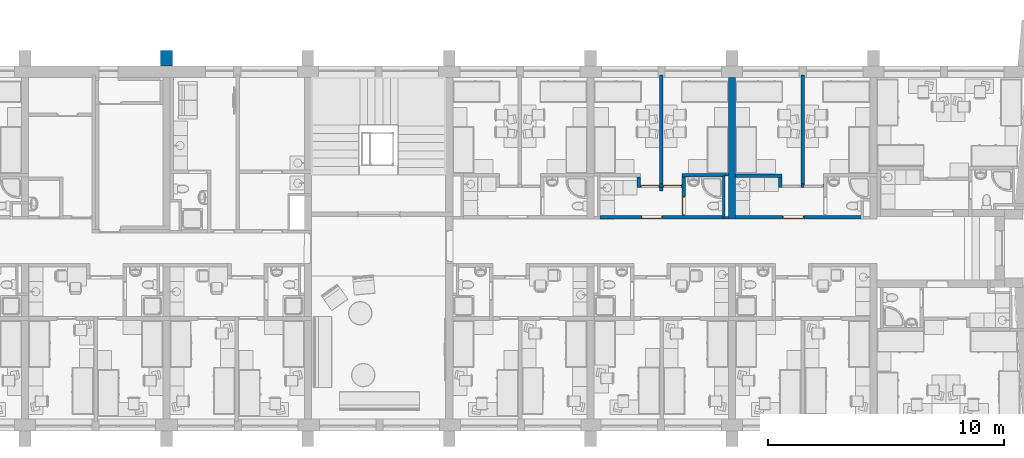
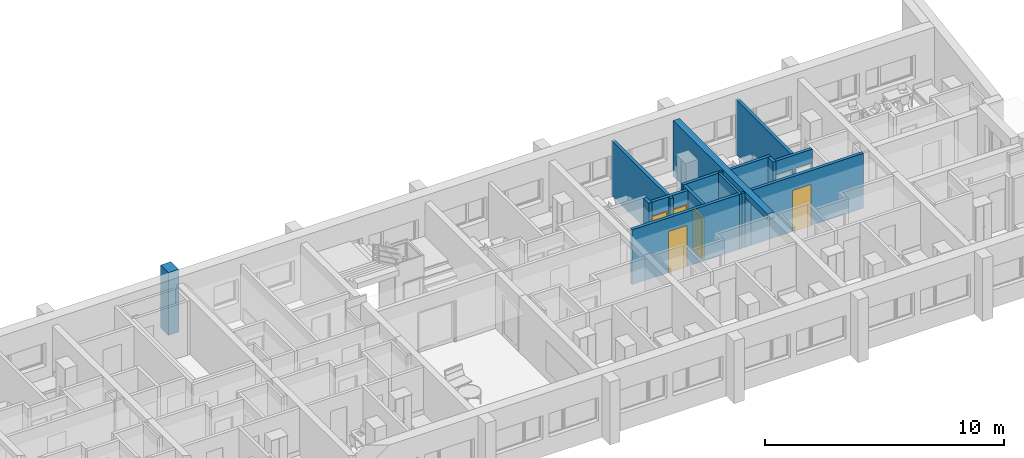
# One storey, part 17 of 165: 16 walls, 5 doors, 8 openings.
"""IFC2X3 building model written with IfcOpenShell, lengths in millimetres."""

from ifc_helpers import new_model, entity, si_unit, converted_unit, money_unit, direction, frame, origin_with_axes, place, context, subcontext, project, spatial, polyline, outline, extrude, faceted_brep, source, transform, mapped, material, material_list, layer, layer_set, layer_usage, type_object, element, fill, save


model = new_model("IFC2X3")

# Units and contexts
model_context = context("Model", 3, precision=1e-05, world=origin_with_axes(), true_north=direction((0.0, 1.0)))
body_context = subcontext(model_context, "Body", "Model", "MODEL_VIEW")
ifc_project = project(units=[si_unit("LENGTHUNIT", "METRE", prefix="MILLI"), si_unit("AREAUNIT", "SQUARE_METRE"), si_unit("VOLUMEUNIT", "CUBIC_METRE"), converted_unit("PLANEANGLEUNIT", "DEGREE", entity("IfcPlaneAngleMeasure", 0.0174532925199), si_unit("PLANEANGLEUNIT", "RADIAN"), dimensions=[0, 0, 0, 0, 0, 0, 0]), si_unit("SOLIDANGLEUNIT", "STERADIAN"), money_unit("USD"), converted_unit("TIMEUNIT", "Year", entity("IfcTimeMeasure", 31556926.0), si_unit("TIMEUNIT", "SECOND"), dimensions=[0, 0, 0, 0, 0, 0, 0]), si_unit("MASSUNIT", "GRAM"), si_unit("THERMODYNAMICTEMPERATUREUNIT", "DEGREE_CELSIUS"), si_unit("LUMINOUSINTENSITYUNIT", "LUMEN")], contexts=[model_context])

# Site, building, storey
site_placement = place(None, origin_with_axes())
site = spatial("IfcSite", under=ifc_project, at=site_placement, Name="Site", CompositionType="ELEMENT")
building_placement = place(site_placement, origin_with_axes())
building = spatial("IfcBuilding", under=site, at=building_placement, Name="Building", CompositionType="ELEMENT")
storey_placement = place(building_placement, frame((0.0, 0.0, 6300.0), z_axis=(0.0, 0.0, 1.0), x_axis=(1.0, 0.0, 0.0)))
storey = spatial("IfcBuildingStorey", under=building, at=storey_placement, Name="4KORRUS", CompositionType="ELEMENT", Elevation=6300.0)

# Walls
ifc_material_1 = material(Name="Olemasolevad seinad tellis, uus viimistlus")
ifc_layer_1 = layer(ifc_material_1, 500.0, ventilated="UNKNOWN")
ifc_layer_set_1 = layer_set([ifc_layer_1], Name="Olemasolevad seinad tellis, uus viimistlus 500")
ifc_layer_usage_1 = layer_usage(ifc_layer_set_1, "AXIS2", "POSITIVE", -100.0)
wall_type_1 = type_object("IfcWallType", Name="Olemasolevad seinad tellis, uus viimistlus 500", PredefinedType="NOTDEFINED")
wall_1_placement = place(storey_placement, frame((-17990.2967033, -4639.6041088, 0.0), z_axis=(0.0, 0.0, 1.0), x_axis=(0.0, 1.0, 0.0)))
element("IfcWallStandardCase", 1, at=wall_1_placement, inside=storey, type_object=wall_type_1, material=ifc_layer_usage_1, Name="VS1", ObjectType="VS1", context=body_context, shape_type="SweptSolid", body=[
    extrude(outline(polyline([(0.0, -100.0), (657.402041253, -100.0), (657.402041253, 400.0), (0.0, 400.0), (0.0, -100.0)])), origin_with_axes(), (0.0, 0.0, 1.0), 3200.0),
])
ifc_material_2 = material(Name="UmbKipsplaat")
ifc_layer_2 = layer(ifc_material_2, 13.0, ventilated="UNKNOWN")
ifc_layer_3 = layer(ifc_material_2, 13.0, ventilated="UNKNOWN")
ifc_material_3 = material(Name="SOOJUSTUS MINERAALVILL")
ifc_layer_4 = layer(ifc_material_3, 98.0, ventilated="UNKNOWN")
ifc_layer_5 = layer(ifc_material_2, 13.0, ventilated="UNKNOWN")
ifc_layer_6 = layer(ifc_material_2, 13.0, ventilated="UNKNOWN")
ifc_layer_set_2 = layer_set([ifc_layer_2, ifc_layer_3, ifc_layer_4, ifc_layer_5, ifc_layer_6], Name="kipssein150")
ifc_layer_usage_2 = layer_usage(ifc_layer_set_2, "AXIS2", "POSITIVE", -150.0)
wall_type_2 = type_object("IfcWallType", Name="kipssein150 150", PredefinedType="NOTDEFINED")
wall_2_placement = place(storey_placement, frame((7984.2564771, -9391.01327279, 0.0), z_axis=(0.0, 0.0, 1.0), x_axis=(-1.0, 0.0, 0.0)))
element("IfcWallStandardCase", 2, at=wall_2_placement, inside=storey, type_object=wall_type_2, material=ifc_layer_usage_2, Name="SS1", ObjectType="SS1", context=body_context, shape_type="SweptSolid", body=[
    extrude(outline(polyline([(0.0, -150.0), (1974.55318041, -150.0), (1974.55318041, 0.0), (0.0, 0.0), (0.0, -150.0)])), origin_with_axes(), (0.0, 0.0, 1.0), 2800.0),
])
ifc_layer_usage_3 = layer_usage(ifc_layer_set_2, "AXIS2", "POSITIVE", -150.0)
wall_3_placement = place(storey_placement, frame((7984.2564771, -9391.01327279, 0.0), z_axis=(0.0, 0.0, 1.0), x_axis=(0.0, -1.0, 0.0)))
element("IfcWallStandardCase", 3, at=wall_3_placement, inside=storey, type_object=wall_type_2, material=ifc_layer_usage_3, Name="SS1", ObjectType="SS1", context=body_context, shape_type="SweptSolid", body=[
    extrude(outline(polyline([(0.0, -150.0), (414.880865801, -150.0), (414.880865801, 0.0), (0.0, 0.0), (0.0, -150.0)])), origin_with_axes(), (0.0, 0.0, 1.0), 2800.0),
])

# Wall, openings
ifc_layer_usage_4 = layer_usage(ifc_layer_set_2, "AXIS2", "POSITIVE", 0.0)
wall_4_placement = place(storey_placement, frame((7984.2564771, -9805.89413859, 0.0), z_axis=(0.0, 0.0, 1.0), x_axis=(1.0, 0.0, 0.0)))
wall_4 = element("IfcWallStandardCase", 4, at=wall_4_placement, inside=storey, type_object=wall_type_2, material=ifc_layer_usage_4, Name="SS1", ObjectType="SS1", context=body_context, shape_type="SweptSolid", body=[
    extrude(outline(polyline([(0.0, 0.0), (1750.44681959, 0.0), (1750.44681959, 150.0), (0.0, 150.0), (0.0, 0.0)])), origin_with_axes(), (0.0, 0.0, 1.0), 2800.0),
])
opening_1_placement = place(wall_4_placement, frame((1341.45577623, 0.0, 0.0), z_axis=(0.0, 0.0, 1.0), x_axis=(1.0, 0.0, 0.0)))
element("IfcOpeningElement", 5, at=opening_1_placement, cuts=wall_4, Name="SU3-5", context=body_context, shape_type="SweptSolid", body=[
    extrude(outline(polyline([(-400.0, 0.0), (400.0, 0.0), (400.0, 2100.0), (-400.0, 2100.0), (-400.0, 0.0)])), frame((0.0, 150.0, 0.0), z_axis=(0.0, 1.0, 0.0), x_axis=(-1.0, 0.0, 0.0)), (0.0, 0.0, -1.0), 450.0),
])
opening_2_placement = place(wall_4_placement, frame((400.0, 0.0, 0.0), z_axis=(0.0, 0.0, 1.0), x_axis=(1.0, 0.0, 0.0)))
element("IfcOpeningElement", 6, at=opening_2_placement, cuts=wall_4, Name="SU3-4", context=body_context, shape_type="SweptSolid", body=[
    extrude(outline(polyline([(-400.0, 0.0), (400.0, 0.0), (400.0, 2100.0), (-400.0, 2100.0), (-400.0, 0.0)])), frame((0.0, 150.0, 0.0), z_axis=(0.0, -1.0, 0.0), x_axis=(1.0, 0.0, 0.0)), (0.0, 0.0, 1.0), 450.0),
])

# Wall
ifc_layer_usage_5 = layer_usage(ifc_layer_set_2, "AXIS2", "POSITIVE", 0.0)
wall_5_placement = place(storey_placement, frame((8784.2564771, -5039.6041088, 0.0), z_axis=(0.0, 0.0, 1.0), x_axis=(0.0, -1.0, 0.0)))
element("IfcWallStandardCase", 7, at=wall_5_placement, inside=storey, type_object=wall_type_2, material=ifc_layer_usage_5, Name="SS1", ObjectType="SS1", context=body_context, shape_type="SweptSolid", body=[
    extrude(outline(polyline([(0.0, 0.0), (4766.29002979, 0.0), (4766.29002979, 150.0), (0.0, 150.0), (0.0, 0.0)])), origin_with_axes(), (0.0, 0.0, 1.0), 2800.0),
])

# Wall, opening, door
ifc_layer_usage_6 = layer_usage(ifc_layer_set_2, "AXIS2", "POSITIVE", 0.0)
wall_6_placement = place(storey_placement, frame((6009.70329669, -11136.6041535, 0.0), z_axis=(0.0, 0.0, 1.0), x_axis=(1.0, 0.0, 0.0)))
wall_6 = element("IfcWallStandardCase", 8, at=wall_6_placement, inside=storey, type_object=wall_type_2, material=ifc_layer_usage_6, Name="SS1", ObjectType="SS1", context=body_context, shape_type="SweptSolid", body=[
    extrude(outline(polyline([(0.0, 0.0), (5427.92293803, 0.0), (5427.92293803, 150.0), (0.0, 150.0), (0.0, 0.0)])), origin_with_axes(), (0.0, 0.0, 1.0), 2800.0),
])
opening_3_placement = place(wall_6_placement, frame((2449.55318041, 0.0, 0.0), z_axis=(0.0, 0.0, 1.0), x_axis=(1.0, 0.0, 0.0)))
opening_3 = element("IfcOpeningElement", 9, at=opening_3_placement, cuts=wall_6, Name="SU2-6", context=body_context, shape_type="SweptSolid", body=[
    extrude(outline(polyline([(-450.0, -2100.0), (450.0, -2100.0), (450.0, 0.0), (-450.0, 0.0), (-450.0, -2100.0)])), frame((0.0, 150.0, 0.0), z_axis=(0.0, 1.0, 0.0), x_axis=(1.0, 0.0, 0.0)), (0.0, 0.0, -1.0), 450.0),
])
ifc_material_4 = material(Name="Background")
ifc_material_list = material_list([ifc_material_4])
door_style_1 = type_object("IfcDoorStyle", Name="Door 19", ConstructionType="NOTDEFINED", OperationType="SINGLE_SWING_LEFT", ParameterTakesPrecedence=False, Sizeable=False)
shared_shape_1 = source(origin_with_axes(), body_context, "Body", "Brep", [
    faceted_brep([(410.0, -40.0, 0.0), (410.0, -115.0, 0.0), (410.0, -115.0, 2060.0), (410.0, -40.0, 2060.0), (422.0, -40.0, 0.0), (422.0, 0.0, 0.0), (450.0, 0.0, 0.0), (450.0, -115.0, 0.0), (450.0, -115.0, 2060.0), (422.0, -40.0, 2060.0), (450.0, 0.0, 2060.0), (422.0, 0.0, 2060.0)], [[[0, 1, 2, 3]], [[4, 5, 6, 7, 1, 0]], [[2, 1, 7, 8]], [[9, 3, 2, 8, 10, 11]], [[9, 4, 0, 3]], [[11, 5, 4, 9]], [[11, 10, 6, 5]], [[7, 6, 10, 8]]]),
    faceted_brep([(-422.0, -40.0, 2060.0), (-422.0, 0.0, 2060.0), (-450.0, 0.0, 2060.0), (-450.0, -115.0, 2060.0), (-410.0, -115.0, 2060.0), (-410.0, -40.0, 2060.0), (-422.0, -40.0, 0.0), (-422.0, 0.0, 0.0), (-450.0, 0.0, 0.0), (-450.0, -115.0, 0.0), (-410.0, -115.0, 0.0), (-410.0, -40.0, 0.0)], [[[0, 1, 2, 3, 4, 5]], [[0, 6, 7, 1]], [[7, 8, 2, 1]], [[3, 2, 8, 9]], [[4, 3, 9, 10]], [[5, 4, 10, 11]], [[5, 11, 6, 0]], [[6, 11, 10, 9, 8, 7]]]),
    faceted_brep([(422.0, 0.0, 2072.0), (-422.0, 0.0, 2072.0), (-422.0, 0.0, 2060.0), (-450.0, 0.0, 2060.0), (-450.0, 0.0, 2100.0), (450.0, 0.0, 2100.0), (450.0, 0.0, 2060.0), (422.0, 0.0, 2060.0), (422.0, -40.0, 2072.0), (-422.0, -40.0, 2072.0), (-422.0, -40.0, 2060.0), (-410.0, -40.0, 2060.0), (-410.0, -115.0, 2060.0), (-450.0, -115.0, 2060.0), (-450.0, -115.0, 2100.0), (450.0, -115.0, 2100.0), (450.0, -115.0, 2060.0), (422.0, -40.0, 2060.0), (410.0, -115.0, 2060.0), (410.0, -40.0, 2060.0)], [[[0, 1, 2, 3, 4, 5, 6, 7]], [[0, 8, 9, 1]], [[1, 9, 10, 2]], [[10, 11, 12, 13, 3, 2]], [[14, 4, 3, 13]], [[15, 5, 4, 14]], [[16, 6, 5, 15]], [[17, 7, 6, 16, 18, 19]], [[7, 17, 8, 0]], [[10, 9, 8, 17, 19, 11]], [[19, 18, 12, 11]], [[13, 12, 18, 16, 15, 14]]]),
    faceted_brep([(-422.0, 0.0, 0.0), (422.0, 0.0, 0.0), (422.0, -40.0, 0.0), (-422.0, -40.0, 0.0), (-422.0, 0.0, 2072.0), (422.0, 0.0, 2072.0), (422.0, -40.0, 2072.0), (-422.0, -40.0, 2072.0)], [[[0, 1, 2, 3]], [[0, 4, 5, 1]], [[1, 5, 6, 2]], [[3, 2, 6, 7]], [[4, 0, 3, 7]], [[5, 4, 7, 6]]]),
])
door_1_placement = place(opening_3_placement, frame((450.0, 0.0, 0.0), z_axis=(0.0, 0.0, 1.0), x_axis=(-1.0, 0.0, 0.0)))
door_1 = element("IfcDoor", 10, at=door_1_placement, inside=storey, type_object=door_style_1, material=ifc_material_list, Name="SU2-6", ObjectType="Korteri välisuks", OverallHeight=2100.0, OverallWidth=900.0, context=body_context, shape_type="MappedRepresentation", body=[
    mapped(shared_shape_1, transform((450.0, 0.0, 0.0))),
])
fill(opening_3, door_1)

ifc_layer_usage_7 = layer_usage(ifc_layer_set_2, "AXIS2", "POSITIVE", 0.0)
wall_7_placement = place(storey_placement, frame((3734.70329669, -9367.37850445, 0.0), z_axis=(0.0, 0.0, 1.0), x_axis=(0.0, -1.0, 0.0)))
wall_7 = element("IfcWallStandardCase", 11, at=wall_7_placement, inside=storey, type_object=wall_type_2, material=ifc_layer_usage_7, Name="SS1", ObjectType="SS1", context=body_context, shape_type="SweptSolid", body=[
    extrude(outline(polyline([(0.0, 0.0), (1619.22560435, 0.0), (1619.22560435, 150.0), (0.0, 150.0), (0.0, 0.0)])), origin_with_axes(), (0.0, 0.0, 1.0), 2800.0),
])
opening_4_placement = place(wall_7_placement, frame((1219.22560435, 0.0, 0.0), z_axis=(0.0, 0.0, 1.0), x_axis=(1.0, 0.0, 0.0)))
opening_4 = element("IfcOpeningElement", 12, at=opening_4_placement, cuts=wall_7, Name="SU3-3", context=body_context, shape_type="SweptSolid", body=[
    extrude(outline(polyline([(-400.0, -2100.0), (400.0, -2100.0), (400.0, 0.0), (-400.0, 0.0), (-400.0, -2100.0)])), frame((0.0, 150.0, 0.0), z_axis=(0.0, 1.0, 0.0), x_axis=(1.0, 0.0, 0.0)), (0.0, 0.0, -1.0), 450.0),
])
shared_shape_2 = source(origin_with_axes(), body_context, "Body", "Brep", [
    faceted_brep([(360.0, -40.0, 0.0), (360.0, -115.0, 0.0), (360.0, -115.0, 2060.0), (360.0, -40.0, 2060.0), (372.0, -40.0, 0.0), (372.0, 0.0, 0.0), (400.0, 0.0, 0.0), (400.0, -115.0, 0.0), (400.0, -115.0, 2060.0), (372.0, -40.0, 2060.0), (400.0, 0.0, 2060.0), (372.0, 0.0, 2060.0)], [[[0, 1, 2, 3]], [[4, 5, 6, 7, 1, 0]], [[2, 1, 7, 8]], [[9, 3, 2, 8, 10, 11]], [[9, 4, 0, 3]], [[11, 5, 4, 9]], [[11, 10, 6, 5]], [[7, 6, 10, 8]]]),
    faceted_brep([(-372.0, -40.0, 2060.0), (-372.0, 0.0, 2060.0), (-400.0, 0.0, 2060.0), (-400.0, -115.0, 2060.0), (-360.0, -115.0, 2060.0), (-360.0, -40.0, 2060.0), (-372.0, -40.0, 0.0), (-372.0, 0.0, 0.0), (-400.0, 0.0, 0.0), (-400.0, -115.0, 0.0), (-360.0, -115.0, 0.0), (-360.0, -40.0, 0.0)], [[[0, 1, 2, 3, 4, 5]], [[0, 6, 7, 1]], [[7, 8, 2, 1]], [[3, 2, 8, 9]], [[4, 3, 9, 10]], [[5, 4, 10, 11]], [[5, 11, 6, 0]], [[6, 11, 10, 9, 8, 7]]]),
    faceted_brep([(372.0, 0.0, 2072.0), (-372.0, 0.0, 2072.0), (-372.0, 0.0, 2060.0), (-400.0, 0.0, 2060.0), (-400.0, 0.0, 2100.0), (400.0, 0.0, 2100.0), (400.0, 0.0, 2060.0), (372.0, 0.0, 2060.0), (372.0, -40.0, 2072.0), (-372.0, -40.0, 2072.0), (-372.0, -40.0, 2060.0), (-360.0, -40.0, 2060.0), (-360.0, -115.0, 2060.0), (-400.0, -115.0, 2060.0), (-400.0, -115.0, 2100.0), (400.0, -115.0, 2100.0), (400.0, -115.0, 2060.0), (372.0, -40.0, 2060.0), (360.0, -115.0, 2060.0), (360.0, -40.0, 2060.0)], [[[0, 1, 2, 3, 4, 5, 6, 7]], [[0, 8, 9, 1]], [[1, 9, 10, 2]], [[10, 11, 12, 13, 3, 2]], [[14, 4, 3, 13]], [[15, 5, 4, 14]], [[16, 6, 5, 15]], [[17, 7, 6, 16, 18, 19]], [[7, 17, 8, 0]], [[10, 9, 8, 17, 19, 11]], [[19, 18, 12, 11]], [[13, 12, 18, 16, 15, 14]]]),
    faceted_brep([(-372.0, 0.0, 0.0), (372.0, 0.0, 0.0), (372.0, -40.0, 0.0), (-372.0, -40.0, 0.0), (-372.0, 0.0, 2072.0), (372.0, 0.0, 2072.0), (372.0, -40.0, 2072.0), (-372.0, -40.0, 2072.0)], [[[0, 1, 2, 3]], [[0, 4, 5, 1]], [[1, 5, 6, 2]], [[3, 2, 6, 7]], [[4, 0, 3, 7]], [[5, 4, 7, 6]]]),
])
door_2_placement = place(opening_4_placement, frame((400.0, 0.0, 0.0), z_axis=(0.0, 0.0, 1.0), x_axis=(-1.0, 0.0, 0.0)))
door_2 = element("IfcDoor", 13, at=door_2_placement, inside=storey, type_object=door_style_1, material=ifc_material_list, Name="SU3-3", ObjectType="WC-uks", OverallHeight=2100.0, OverallWidth=800.0, context=body_context, shape_type="MappedRepresentation", body=[
    mapped(shared_shape_2, transform((400.0, 0.0, 0.0))),
])
fill(opening_4, door_2)

# Walls
ifc_layer_usage_8 = layer_usage(ifc_layer_set_2, "AXIS2", "POSITIVE", -150.0)
wall_8_placement = place(storey_placement, frame((1984.2564771, -9366.37850445, 0.0), z_axis=(0.0, 0.0, 1.0), x_axis=(0.0, -1.0, 0.0)))
element("IfcWallStandardCase", 14, at=wall_8_placement, inside=storey, type_object=wall_type_2, material=ifc_layer_usage_8, Name="SS1", ObjectType="SS1", context=body_context, shape_type="SweptSolid", body=[
    extrude(outline(polyline([(0.0, -150.0), (440.515634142, -150.0), (440.515634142, 0.0), (0.0, 0.0), (0.0, -150.0)])), origin_with_axes(), (0.0, 0.0, 1.0), 2800.0),
])
ifc_layer_usage_9 = layer_usage(ifc_layer_set_2, "AXIS2", "POSITIVE", 0.0)
wall_9_placement = place(storey_placement, frame((3734.70329669, -9367.37850445, 0.0), z_axis=(0.0, 0.0, 1.0), x_axis=(1.0, 0.0, 0.0)))
element("IfcWallStandardCase", 15, at=wall_9_placement, inside=storey, type_object=wall_type_2, material=ifc_layer_usage_9, Name="SS1", ObjectType="SS1", context=body_context, shape_type="SweptSolid", body=[
    extrude(outline(polyline([(0.0, 0.0), (1825.0, 0.0), (1825.0, 150.0), (0.0, 150.0), (0.0, 0.0)])), origin_with_axes(), (0.0, 0.0, 1.0), 2800.0),
])

# Wall, openings, doors
ifc_layer_usage_10 = layer_usage(ifc_layer_set_2, "AXIS2", "POSITIVE", 0.0)
wall_10_placement = place(storey_placement, frame((1984.2564771, -9806.89413859, 0.0), z_axis=(0.0, 0.0, 1.0), x_axis=(1.0, 0.0, 0.0)))
wall_10 = element("IfcWallStandardCase", 16, at=wall_10_placement, inside=storey, type_object=wall_type_2, material=ifc_layer_usage_10, Name="SS1", ObjectType="SS1", context=body_context, shape_type="SweptSolid", body=[
    extrude(outline(polyline([(0.0, 0.0), (1750.44681959, 0.0), (1750.44681959, 150.0), (0.0, 150.0), (0.0, 0.0)])), origin_with_axes(), (0.0, 0.0, 1.0), 2800.0),
])
opening_5_placement = place(wall_10_placement, frame((1341.45577623, 0.0, 0.0), z_axis=(0.0, 0.0, 1.0), x_axis=(1.0, 0.0, 0.0)))
opening_5 = element("IfcOpeningElement", 17, at=opening_5_placement, cuts=wall_10, Name="SU3-5", context=body_context, shape_type="SweptSolid", body=[
    extrude(outline(polyline([(-400.0, 0.0), (400.0, 0.0), (400.0, 2100.0), (-400.0, 2100.0), (-400.0, 0.0)])), frame((0.0, 150.0, 0.0), z_axis=(0.0, 1.0, 0.0), x_axis=(-1.0, 0.0, 0.0)), (0.0, 0.0, -1.0), 450.0),
])
opening_6_placement = place(wall_10_placement, frame((400.0, 0.0, 0.0), z_axis=(0.0, 0.0, 1.0), x_axis=(1.0, 0.0, 0.0)))
opening_6 = element("IfcOpeningElement", 18, at=opening_6_placement, cuts=wall_10, Name="SU3-4", context=body_context, shape_type="SweptSolid", body=[
    extrude(outline(polyline([(-400.0, 0.0), (400.0, 0.0), (400.0, 2100.0), (-400.0, 2100.0), (-400.0, 0.0)])), frame((0.0, 150.0, 0.0), z_axis=(0.0, -1.0, 0.0), x_axis=(1.0, 0.0, 0.0)), (0.0, 0.0, 1.0), 450.0),
])
door_style_2 = type_object("IfcDoorStyle", Name="Door 19", ConstructionType="NOTDEFINED", OperationType="SINGLE_SWING_LEFT", ParameterTakesPrecedence=False, Sizeable=False)
shared_shape_3 = source(origin_with_axes(), body_context, "Body", "Brep", [
    faceted_brep([(360.0, -75.0, 0.0), (360.0, -150.0, 0.0), (360.0, -150.0, 2060.0), (360.0, -75.0, 2060.0), (372.0, -75.0, 0.0), (372.0, -35.0, 0.0), (400.0, -35.0, 0.0), (400.0, -150.0, 0.0), (400.0, -150.0, 2060.0), (372.0, -75.0, 2060.0), (400.0, -35.0, 2060.0), (372.0, -35.0, 2060.0)], [[[0, 1, 2, 3]], [[4, 5, 6, 7, 1, 0]], [[2, 1, 7, 8]], [[9, 3, 2, 8, 10, 11]], [[9, 4, 0, 3]], [[11, 5, 4, 9]], [[11, 10, 6, 5]], [[7, 6, 10, 8]]]),
    faceted_brep([(-372.0, -75.0, 2060.0), (-372.0, -35.0, 2060.0), (-400.0, -35.0, 2060.0), (-400.0, -150.0, 2060.0), (-360.0, -150.0, 2060.0), (-360.0, -75.0, 2060.0), (-372.0, -75.0, 0.0), (-372.0, -35.0, 0.0), (-400.0, -35.0, 0.0), (-400.0, -150.0, 0.0), (-360.0, -150.0, 0.0), (-360.0, -75.0, 0.0)], [[[0, 1, 2, 3, 4, 5]], [[0, 6, 7, 1]], [[7, 8, 2, 1]], [[3, 2, 8, 9]], [[4, 3, 9, 10]], [[5, 4, 10, 11]], [[5, 11, 6, 0]], [[6, 11, 10, 9, 8, 7]]]),
    faceted_brep([(372.0, -35.0, 2072.0), (-372.0, -35.0, 2072.0), (-372.0, -35.0, 2060.0), (-400.0, -35.0, 2060.0), (-400.0, -35.0, 2100.0), (400.0, -35.0, 2100.0), (400.0, -35.0, 2060.0), (372.0, -35.0, 2060.0), (372.0, -75.0, 2072.0), (-372.0, -75.0, 2072.0), (-372.0, -75.0, 2060.0), (-360.0, -75.0, 2060.0), (-360.0, -150.0, 2060.0), (-400.0, -150.0, 2060.0), (-400.0, -150.0, 2100.0), (400.0, -150.0, 2100.0), (400.0, -150.0, 2060.0), (372.0, -75.0, 2060.0), (360.0, -150.0, 2060.0), (360.0, -75.0, 2060.0)], [[[0, 1, 2, 3, 4, 5, 6, 7]], [[0, 8, 9, 1]], [[1, 9, 10, 2]], [[10, 11, 12, 13, 3, 2]], [[14, 4, 3, 13]], [[15, 5, 4, 14]], [[16, 6, 5, 15]], [[17, 7, 6, 16, 18, 19]], [[7, 17, 8, 0]], [[10, 9, 8, 17, 19, 11]], [[19, 18, 12, 11]], [[13, 12, 18, 16, 15, 14]]]),
    faceted_brep([(-372.0, -35.0, 0.0), (372.0, -35.0, 0.0), (372.0, -75.0, 0.0), (-372.0, -75.0, 0.0), (-372.0, -35.0, 2072.0), (372.0, -35.0, 2072.0), (372.0, -75.0, 2072.0), (-372.0, -75.0, 2072.0)], [[[0, 1, 2, 3]], [[0, 4, 5, 1]], [[1, 5, 6, 2]], [[3, 2, 6, 7]], [[4, 0, 3, 7]], [[5, 4, 7, 6]]]),
])
door_3_placement = place(opening_5_placement, frame((-400.0, 0.0, 0.0), z_axis=(0.0, 0.0, 1.0), x_axis=(1.0, 0.0, 0.0)))
door_3 = element("IfcDoor", 19, at=door_3_placement, inside=storey, type_object=door_style_2, material=ifc_material_list, Name="SU3-5", ObjectType="Toa uks", OverallHeight=2100.0, OverallWidth=800.0, context=body_context, shape_type="MappedRepresentation", body=[
    mapped(shared_shape_3, transform((400.0, 150.0, 0.0))),
])
fill(opening_5, door_3)
door_style_3 = type_object("IfcDoorStyle", Name="Door 19", ConstructionType="NOTDEFINED", OperationType="SINGLE_SWING_RIGHT", ParameterTakesPrecedence=False, Sizeable=False)
shared_shape_4 = source(origin_with_axes(), body_context, "Body", "Brep", [
    faceted_brep([(-360.0, -75.0, 0.0), (-360.0, -75.0, 2060.0), (-360.0, -150.0, 2060.0), (-360.0, -150.0, 0.0), (-372.0, -75.0, 2060.0), (-372.0, -75.0, 0.0), (-372.0, -35.0, 2060.0), (-400.0, -35.0, 2060.0), (-400.0, -150.0, 2060.0), (-400.0, -150.0, 0.0), (-400.0, -35.0, 0.0), (-372.0, -35.0, 0.0)], [[[0, 1, 2, 3]], [[4, 1, 0, 5]], [[4, 6, 7, 8, 2, 1]], [[2, 8, 9, 3]], [[5, 0, 3, 9, 10, 11]], [[6, 4, 5, 11]], [[6, 11, 10, 7]], [[9, 8, 7, 10]]]),
    faceted_brep([(372.0, -75.0, 2060.0), (360.0, -75.0, 2060.0), (360.0, -150.0, 2060.0), (400.0, -150.0, 2060.0), (400.0, -35.0, 2060.0), (372.0, -35.0, 2060.0), (372.0, -75.0, 0.0), (360.0, -75.0, 0.0), (360.0, -150.0, 0.0), (400.0, -150.0, 0.0), (400.0, -35.0, 0.0), (372.0, -35.0, 0.0)], [[[0, 1, 2, 3, 4, 5]], [[1, 0, 6, 7]], [[1, 7, 8, 2]], [[2, 8, 9, 3]], [[3, 9, 10, 4]], [[11, 5, 4, 10]], [[0, 5, 11, 6]], [[6, 11, 10, 9, 8, 7]]]),
    faceted_brep([(-372.0, -35.0, 2072.0), (-372.0, -35.0, 2060.0), (-400.0, -35.0, 2060.0), (-400.0, -35.0, 2100.0), (400.0, -35.0, 2100.0), (400.0, -35.0, 2060.0), (372.0, -35.0, 2060.0), (372.0, -35.0, 2072.0), (-372.0, -75.0, 2072.0), (-372.0, -75.0, 2060.0), (-360.0, -75.0, 2060.0), (-360.0, -150.0, 2060.0), (-400.0, -150.0, 2060.0), (-400.0, -150.0, 2100.0), (400.0, -150.0, 2100.0), (400.0, -150.0, 2060.0), (372.0, -75.0, 2060.0), (360.0, -150.0, 2060.0), (360.0, -75.0, 2060.0), (372.0, -75.0, 2072.0)], [[[0, 1, 2, 3, 4, 5, 6, 7]], [[1, 0, 8, 9]], [[9, 10, 11, 12, 2, 1]], [[12, 13, 3, 2]], [[13, 14, 4, 3]], [[14, 15, 5, 4]], [[16, 6, 5, 15, 17, 18]], [[7, 6, 16, 19]], [[0, 7, 19, 8]], [[16, 18, 10, 9, 8, 19]], [[10, 18, 17, 11]], [[15, 14, 13, 12, 11, 17]]]),
    faceted_brep([(372.0, -35.0, 0.0), (372.0, -75.0, 0.0), (-372.0, -75.0, 0.0), (-372.0, -35.0, 0.0), (372.0, -35.0, 2072.0), (372.0, -75.0, 2072.0), (-372.0, -75.0, 2072.0), (-372.0, -35.0, 2072.0)], [[[0, 1, 2, 3]], [[4, 5, 1, 0]], [[1, 5, 6, 2]], [[3, 2, 6, 7]], [[0, 3, 7, 4]], [[7, 6, 5, 4]]]),
])
door_4_placement = place(opening_6_placement, frame((-400.0, 0.0, 0.0), z_axis=(0.0, 0.0, 1.0), x_axis=(1.0, 0.0, 0.0)))
door_4 = element("IfcDoor", 20, at=door_4_placement, inside=storey, type_object=door_style_3, material=ifc_material_list, Name="SU3-4", ObjectType="Toa uks", OverallHeight=2100.0, OverallWidth=800.0, context=body_context, shape_type="MappedRepresentation", body=[
    mapped(shared_shape_4, transform((400.0, 150.0, 0.0))),
])
fill(opening_6, door_4)

# Wall
ifc_layer_usage_11 = layer_usage(ifc_layer_set_2, "AXIS2", "POSITIVE", 0.0)
wall_11_placement = place(storey_placement, frame((2784.2564771, -5039.6041088, 0.0), z_axis=(0.0, 0.0, 1.0), x_axis=(0.0, -1.0, 0.0)))
element("IfcWallStandardCase", 21, at=wall_11_placement, inside=storey, type_object=wall_type_2, material=ifc_layer_usage_11, Name="SS1", ObjectType="SS1", context=body_context, shape_type="SweptSolid", body=[
    extrude(outline(polyline([(0.0, 0.0), (4917.2900745, 0.0), (4917.2900745, 150.0), (0.0, 150.0), (0.0, 0.0)])), origin_with_axes(), (0.0, 0.0, 1.0), 2800.0),
])

# Wall, opening, door
ifc_layer_usage_12 = layer_usage(ifc_layer_set_2, "AXIS2", "POSITIVE", 0.0)
wall_12_placement = place(storey_placement, frame((259.697734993, -11136.6041535, 0.0), z_axis=(0.0, 0.0, 1.0), x_axis=(1.0, 0.0, 0.0)))
wall_12 = element("IfcWallStandardCase", 22, at=wall_12_placement, inside=storey, type_object=wall_type_2, material=ifc_layer_usage_12, Name="SS1", ObjectType="SS1", context=body_context, shape_type="SweptSolid", body=[
    extrude(outline(polyline([(0.0, 0.0), (5300.00556169, 0.0), (5300.00556169, 150.0), (0.0, 150.0), (0.0, 0.0)])), origin_with_axes(), (0.0, 0.0, 1.0), 2800.0),
])
opening_7_placement = place(wall_12_placement, frame((2199.5587421, 0.0, 0.0), z_axis=(0.0, 0.0, 1.0), x_axis=(1.0, 0.0, 0.0)))
opening_7 = element("IfcOpeningElement", 23, at=opening_7_placement, cuts=wall_12, Name="SU2-6", context=body_context, shape_type="SweptSolid", body=[
    extrude(outline(polyline([(-450.0, -2100.0), (450.0, -2100.0), (450.0, 0.0), (-450.0, 0.0), (-450.0, -2100.0)])), frame((0.0, 150.0, 0.0), z_axis=(0.0, 1.0, 0.0), x_axis=(1.0, 0.0, 0.0)), (0.0, 0.0, -1.0), 450.0),
])
door_5_placement = place(opening_7_placement, frame((450.0, 0.0, 0.0), z_axis=(0.0, 0.0, 1.0), x_axis=(-1.0, 0.0, 0.0)))
door_5 = element("IfcDoor", 24, at=door_5_placement, inside=storey, type_object=door_style_1, material=ifc_material_list, Name="SU2-6", ObjectType="Korteri välisuks", OverallHeight=2100.0, OverallWidth=900.0, context=body_context, shape_type="MappedRepresentation", body=[
    mapped(shared_shape_1, transform((450.0, 0.0, 0.0))),
])
fill(opening_7, door_5)

# Wall, opening
ifc_material_5 = material(Name="Olemasolevad seinad tellis, uus viimistlus")
ifc_layer_7 = layer(ifc_material_5, 300.0, ventilated="UNKNOWN")
ifc_layer_set_3 = layer_set([ifc_layer_7], Name="Olemasolevad seinad tellis, uus viimistlus  300")
ifc_layer_usage_13 = layer_usage(ifc_layer_set_3, "AXIS2", "POSITIVE", 0.0)
wall_type_3 = type_object("IfcWallType", Name="Olemasolevad seinad tellis, uus viimistlus  300", PredefinedType="NOTDEFINED")
wall_13_placement = place(storey_placement, frame((6009.70329669, -13036.3705726, 0.0), z_axis=(0.0, 0.0, 1.0), x_axis=(0.0, 1.0, 0.0)))
wall_13 = element("IfcWallStandardCase", 25, at=wall_13_placement, inside=storey, type_object=wall_type_3, material=ifc_layer_usage_13, Name="KS1", ObjectType="KS1", context=body_context, shape_type="SweptSolid", body=[
    extrude(outline(polyline([(0.0, 0.0), (7896.7664638, 0.0), (7896.7664638, 300.0), (0.0, 300.0), (0.0, 0.0)])), origin_with_axes(), (0.0, 0.0, 1.0), 2850.0),
])
opening_8_placement = place(wall_13_placement, frame((948.383209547, 0.0, 0.0), z_axis=(0.0, 0.0, 1.0), x_axis=(1.0, 0.0, 0.0)))
element("IfcOpeningElement", 26, at=opening_8_placement, cuts=wall_13, Name="DOO - 001", context=body_context, shape_type="SweptSolid", body=[
    extrude(outline(polyline([(-951.383, 2550.0), (-951.383, 0.0), (951.383, 0.0), (951.383, 2550.0), (-951.383, 2550.0)])), frame((0.0, 0.0, 0.0), z_axis=(0.0, -1.0, 0.0), x_axis=(1.0, 0.0, 0.0)), (0.0, 0.0, 1.0), 300.0),
    extrude(outline(polyline([(-951.383, 0.0), (-951.383, -2550.0), (951.383, -2550.0), (951.383, 0.0), (-951.383, 0.0)])), frame((0.0, 0.0, 0.0), z_axis=(0.0, 1.0, 0.0), x_axis=(1.0, 0.0, 0.0)), (0.0, 0.0, 1.0), 300.0),
])

# Walls
ifc_material_6 = material(Name="krohv")
ifc_layer_8 = layer(ifc_material_6, 2.0, ventilated="UNKNOWN")
ifc_layer_9 = layer(ifc_material_6, 10.0, ventilated="UNKNOWN")
ifc_material_7 = material(Name="Kergplokk")
ifc_layer_10 = layer(ifc_material_7, 76.0, ventilated="UNKNOWN")
ifc_layer_11 = layer(ifc_material_6, 10.0, ventilated="UNKNOWN")
ifc_layer_12 = layer(ifc_material_6, 2.0, ventilated="UNKNOWN")
ifc_layer_set_4 = layer_set([ifc_layer_8, ifc_layer_9, ifc_layer_10, ifc_layer_11, ifc_layer_12], Name="Kergplokk Bauroc 100")
ifc_layer_usage_14 = layer_usage(ifc_layer_set_4, "AXIS2", "POSITIVE", 0.0)
wall_type_4 = type_object("IfcWallType", Name="Kergplokk Bauroc 100 100", PredefinedType="NOTDEFINED")
wall_14_placement = place(storey_placement, frame((5559.70329669, -9317.37850445, 0.0), z_axis=(0.0, 0.0, 1.0), x_axis=(1.0, 0.0, 0.0)))
element("IfcWallStandardCase", 27, at=wall_14_placement, inside=storey, type_object=wall_type_4, material=ifc_layer_usage_14, Name="SS2", ObjectType="sahtisein", context=body_context, shape_type="SweptSolid", body=[
    extrude(outline(polyline([(0.0, 0.0), (150.0, 0.0), (150.0, 100.0), (0.0, 100.0), (0.0, 0.0)])), origin_with_axes(), (0.0, 0.0, 1.0), 2800.0),
])
ifc_layer_usage_15 = layer_usage(ifc_layer_set_4, "AXIS2", "POSITIVE", 0.0)
wall_15_placement = place(storey_placement, frame((5559.70329669, -11136.6041088, 0.0), z_axis=(0.0, 0.0, 1.0), x_axis=(1.0, 0.0, 0.0)))
element("IfcWallStandardCase", 28, at=wall_15_placement, inside=storey, type_object=wall_type_4, material=ifc_layer_usage_15, Name="SS2", ObjectType="sahtisein", context=body_context, shape_type="SweptSolid", body=[
    extrude(outline(polyline([(0.0, 0.0), (150.0, 0.0), (150.0, 100.0), (0.0, 100.0), (0.0, 0.0)])), origin_with_axes(), (0.0, 0.0, 1.0), 2800.0),
])
ifc_layer_usage_16 = layer_usage(ifc_layer_set_4, "AXIS2", "POSITIVE", -100.0)
wall_16_placement = place(storey_placement, frame((5559.70329669, -9317.37850445, 0.0), z_axis=(0.0, 0.0, 1.0), x_axis=(0.0, -1.0, 0.0)))
element("IfcWallStandardCase", 29, at=wall_16_placement, inside=storey, type_object=wall_type_4, material=ifc_layer_usage_16, Name="SS2", ObjectType="sahtisein", context=body_context, shape_type="SweptSolid", body=[
    extrude(outline(polyline([(0.0, -100.0), (1819.22560435, -100.0), (1819.22560435, 0.0), (0.0, 0.0), (0.0, -100.0)])), origin_with_axes(), (0.0, 0.0, 1.0), 2800.0),
])

save(model, "model.ifc")
